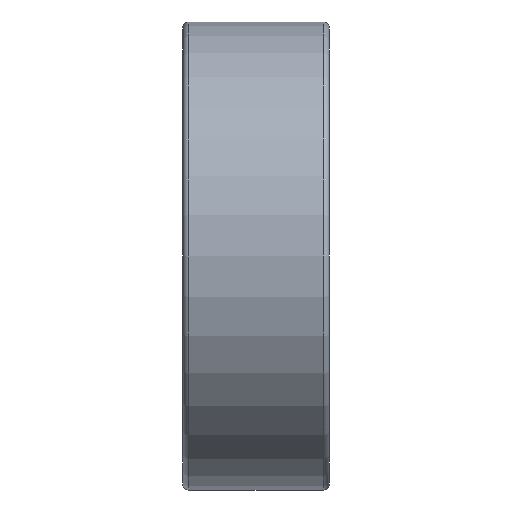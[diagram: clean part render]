
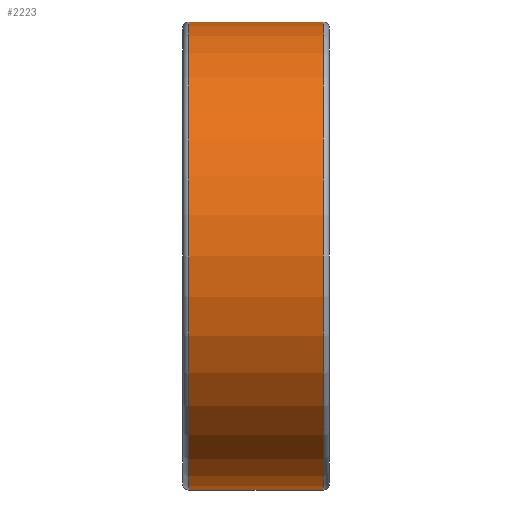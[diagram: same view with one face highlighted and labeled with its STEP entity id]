
A CAD part, front view. The second image highlights one B-rep face of the part: STEP entity #2223.
In plain terms, the highlighted cylindrical face has radius 8 mm (diameter 16 mm), a partial arc.
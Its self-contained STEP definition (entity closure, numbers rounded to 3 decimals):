
#1172=DIRECTION('',(-1.,0.,0.));
#1173=VECTOR('',#1172,4.6);
#1174=CARTESIAN_POINT('',(2.3,0.,8.));
#1175=LINE('',#1174,#1173);
#1211=CARTESIAN_POINT('',(2.3,0.,0.));
#1212=DIRECTION('',(-1.,0.,0.));
#1213=DIRECTION('',(0.,0.,-1.));
#1214=AXIS2_PLACEMENT_3D('',#1211,#1212,#1213);
#1216=DIRECTION('',(-1.,0.,0.));
#1217=VECTOR('',#1216,4.6);
#1218=CARTESIAN_POINT('',(2.3,0.,-8.));
#1219=LINE('',#1218,#1217);
#1225=CARTESIAN_POINT('',(-2.3,0.,0.));
#1226=DIRECTION('',(1.,0.,0.));
#1227=DIRECTION('',(0.,0.,1.));
#1228=AXIS2_PLACEMENT_3D('',#1225,#1226,#1227);
#1484=CARTESIAN_POINT('',(2.3,0.,8.));
#1485=VERTEX_POINT('',#1484);
#1486=CARTESIAN_POINT('',(2.3,0.,-8.));
#1487=VERTEX_POINT('',#1486);
#1488=CARTESIAN_POINT('',(-2.3,0.,-8.));
#1489=VERTEX_POINT('',#1488);
#1490=CARTESIAN_POINT('',(-2.3,0.,8.));
#1491=VERTEX_POINT('',#1490);
#2211=CARTESIAN_POINT('',(0.,0.,0.));
#2212=DIRECTION('',(-1.,0.,0.));
#2213=DIRECTION('',(0.,0.,1.));
#2214=AXIS2_PLACEMENT_3D('',#2211,#2212,#2213);
#2215=CYLINDRICAL_SURFACE('',#2214,8.);
#2216=ORIENTED_EDGE('',*,*,#2161,.T.);
#2218=ORIENTED_EDGE('',*,*,#2217,.F.);
#2219=ORIENTED_EDGE('',*,*,#2158,.F.);
#2220=ORIENTED_EDGE('',*,*,#2204,.F.);
#2221=EDGE_LOOP('',(#2216,#2218,#2219,#2220));
#2222=FACE_OUTER_BOUND('',#2221,.F.);
#2223=ADVANCED_FACE('',(#2222),#2215,.T.);
#1215=CIRCLE('',#1214,8.);
#1229=CIRCLE('',#1228,8.);
#2158=EDGE_CURVE('',#1485,#1491,#1175,.T.);
#2161=EDGE_CURVE('',#1487,#1489,#1219,.T.);
#2204=EDGE_CURVE('',#1487,#1485,#1215,.T.);
#2217=EDGE_CURVE('',#1491,#1489,#1229,.T.);
